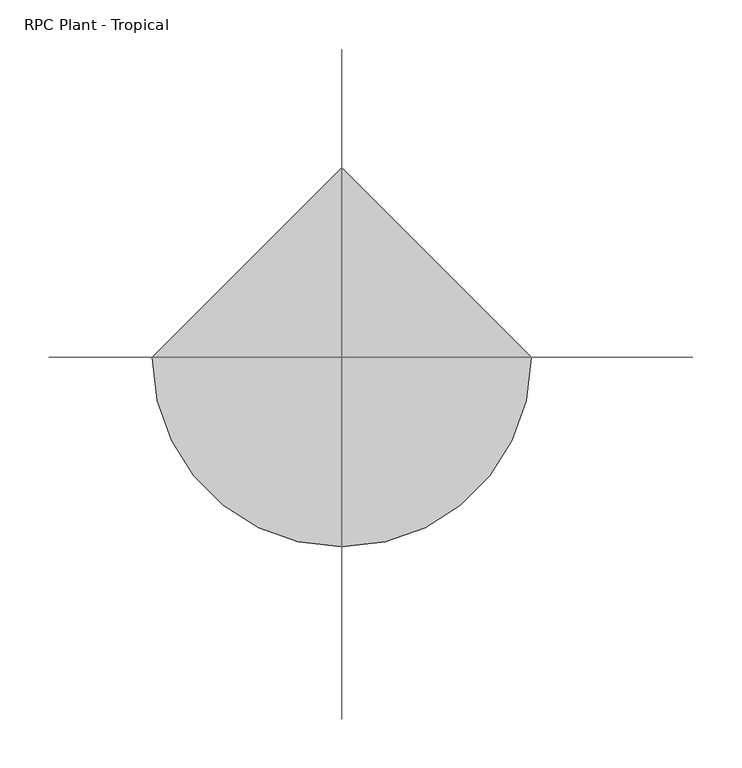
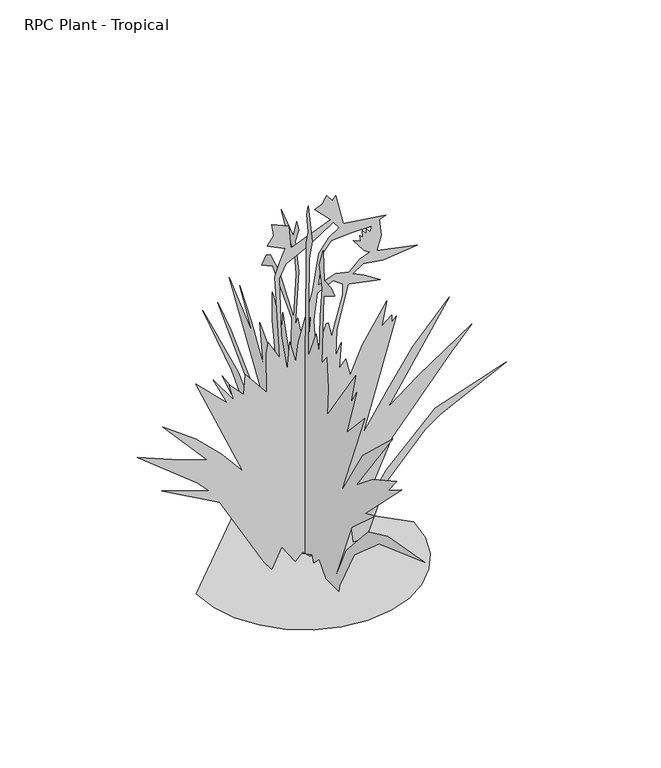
"""IFC4 building model written with IfcOpenShell, lengths in millimetres: geographic element geometry, RPC Plant - Tropical : Crane Lily - 0.9 Meters 2."""

import ifcopenshell
import ifcopenshell.guid

model = None  # the IFC model being written
_history = None  # IfcOwnerHistory: only IFC2X3 demands one
_inside = {}  # id of a spatial element -> (the spatial element, [elements in it])
_under = {}  # id of a project, library or spatial element -> (it, [spatial elements below it])
_declared = {}  # id of a project -> (the project, [libraries it declares])
_typed = {}  # id of a type object -> (the type object, [elements of that type])
_made_of = {}  # id of a material, layer set ... -> (it, [elements and type objects made of it])


def new_model(schema):
    """Start an empty IFC model of exactly this schema.

    Asked for "IFC4X3", IfcOpenShell would pick the latest addendum, in which some entities
    have other attributes; the version numbers below select the first issue.
    IFC2X3 requires an IfcOwnerHistory on every rooted entity: one is made here for all.
    """
    global model, _history
    if schema == "IFC4X3":
        model = ifcopenshell.file(schema_version=(4, 3, 0, 0))
    else:
        model = ifcopenshell.file(schema=schema)
    _inside.clear()
    _under.clear()
    _declared.clear()
    _typed.clear()
    _made_of.clear()
    _history = None
    if model.schema == "IFC2X3":
        org = make("IfcOrganization", Name="unknown")
        user = make(
            "IfcPersonAndOrganization",
            ThePerson=make("IfcPerson", FamilyName="unknown"),
            TheOrganization=org,
        )
        app = make(
            "IfcApplication",
            ApplicationDeveloper=org,
            Version="unknown",
            ApplicationFullName="unknown",
            ApplicationIdentifier="unknown",
        )
        _history = make(
            "IfcOwnerHistory",
            OwningUser=user,
            OwningApplication=app,
            ChangeAction="ADDED",
            CreationDate=0,
        )
    return model


def make(cls, **values):
    """One entity of the class cls with the attributes given. An attribute that is None is left unset."""
    return model.create_entity(
        cls, **{name: value for name, value in values.items() if value is not None}
    )


def rooted(cls, **values):
    """An entity with a GlobalId (a new one), such as an element, a storey or a relation."""
    return make(cls, GlobalId=ifcopenshell.guid.new(), OwnerHistory=_history, **values)


def si_unit(unit_type, name, prefix=None):
    """IfcSIUnit, for example si_unit("LENGTHUNIT", "METRE", prefix="MILLI")."""
    return make("IfcSIUnit", UnitType=unit_type, Prefix=prefix, Name=name)


def assignment(units):
    """IfcUnitAssignment: the units of a project."""
    return None if units is None else make("IfcUnitAssignment", Units=units)


def point(xyz):
    """IfcCartesianPoint."""
    return None if xyz is None else make("IfcCartesianPoint", Coordinates=xyz)


def direction(xyz):
    """IfcDirection."""
    return None if xyz is None else make("IfcDirection", DirectionRatios=xyz)


def frame(location, z_axis=None, x_axis=None):
    """IfcAxis2Placement3D, a coordinate frame: its origin and axes. An axis left out is left unset."""
    return make(
        "IfcAxis2Placement3D",
        Location=point(location),
        Axis=direction(z_axis),
        RefDirection=direction(x_axis),
    )


def origin():
    """The frame at (0, 0, 0) with its axes left unset."""
    return frame((0.0, 0.0, 0.0))


def place(relative_to, where):
    """IfcLocalPlacement: puts the frame where relative to a parent placement (None: the world)."""
    return make(
        "IfcLocalPlacement", PlacementRelTo=relative_to, RelativePlacement=where
    )


def context(
    kind, dimensions, precision=None, world=None, true_north=None, identifier=None
):
    """IfcGeometricRepresentationContext, for example the 3D "Model" context."""
    return make(
        "IfcGeometricRepresentationContext",
        ContextIdentifier=identifier,
        ContextType=kind,
        CoordinateSpaceDimension=dimensions,
        Precision=precision,
        WorldCoordinateSystem=world,
        TrueNorth=true_north,
    )


def project(units=None, contexts=None):
    """IfcProject with its units and contexts."""
    return rooted(
        "IfcProject",
        Name="project",
        RepresentationContexts=contexts,
        UnitsInContext=assignment(units),
    )


def spatial(cls, under=None, at=None, **own):
    """A site, building, storey or space (cls), placed at a placement, below another one or the project."""
    s = rooted(cls, ObjectPlacement=at, **own)
    if under is not None:
        _under.setdefault(under.id(), (under, []))[1].append(s)
    return s


def point_list(points):
    """IfcCartesianPointList2D or 3D."""
    cls = (
        "IfcCartesianPointList2D" if len(points[0]) == 2 else "IfcCartesianPointList3D"
    )
    return make(cls, CoordList=points)


def triangles(points, corners, closed=None, point_numbers=None):
    """IfcTriangulatedFaceSet: each triangle names its three corners, points numbered from 1."""
    return make(
        "IfcTriangulatedFaceSet",
        Coordinates=point_list(points),
        Closed=closed,
        CoordIndex=corners,
        PnIndex=point_numbers,
    )


def shape(context_of_items, identifier, shape_type, items):
    """IfcShapeRepresentation: the items that make up one representation, for example the "Body"."""
    return make(
        "IfcShapeRepresentation",
        ContextOfItems=context_of_items,
        RepresentationIdentifier=identifier,
        RepresentationType=shape_type,
        Items=items,
    )


def source(mapping_origin, context_of_items, identifier, shape_type, items):
    """IfcRepresentationMap: a shape defined once, which mapped items show again and again."""
    return make(
        "IfcRepresentationMap",
        MappingOrigin=mapping_origin,
        MappedRepresentation=shape(context_of_items, identifier, shape_type, items),
    )


def transform(
    local_origin,
    x_axis=None,
    y_axis=None,
    z_axis=None,
    scale=None,
    scale2=None,
    scale3=None,
    uniform=True,
):
    """IfcCartesianTransformationOperator3D, or its non-uniform kind. x_axis, y_axis, z_axis: its Axis1, 2, 3."""
    if uniform:
        return make(
            "IfcCartesianTransformationOperator3D",
            Axis1=direction(x_axis),
            Axis2=direction(y_axis),
            LocalOrigin=point(local_origin),
            Scale=scale,
            Axis3=direction(z_axis),
        )
    return make(
        "IfcCartesianTransformationOperator3DnonUniform",
        Axis1=direction(x_axis),
        Axis2=direction(y_axis),
        LocalOrigin=point(local_origin),
        Scale=scale,
        Axis3=direction(z_axis),
        Scale2=scale2,
        Scale3=scale3,
    )


def mapped(mapping_source, mapping_target):
    """IfcMappedItem: shows the shape of a source again, moved by a transform."""
    return make(
        "IfcMappedItem", MappingSource=mapping_source, MappingTarget=mapping_target
    )


def made_of(thing, what):
    """Note that an element or type object is made of a material, layer set ...; save() writes the relation."""
    if what is not None:
        _made_of.setdefault(what.id(), (what, []))[1].append(thing)
    return thing


def element(
    cls,
    number,
    at=None,
    inside=None,
    cuts=None,
    type_object=None,
    material=None,
    context=None,
    identifier="Body",
    shape_type=None,
    held_by="IfcProductDefinitionShape",
    body=None,
    shapes=None,
    **own,
):
    """One element of the class cls, such as IfcWall. Its Tag is "e" and its number.

    at: its placement. inside: the storey or other place that contains it. cuts: it is an
    opening in that element (IfcRelVoidsElement). A single representation is given by context,
    identifier, shape_type and body (its items); several are given by shapes. held_by: the class
    of the entity that holds the representations. save() writes the other relations.
    """
    e = rooted(cls, Tag="e%d" % number, ObjectPlacement=at, **own)
    if body is not None:
        shapes = [shape(context, identifier, shape_type, body)]
    if shapes is not None:
        e.Representation = make(held_by, Representations=shapes)
    if inside is not None:
        _inside.setdefault(inside.id(), (inside, []))[1].append(e)
    if cuts is not None:
        rooted(
            "IfcRelVoidsElement", RelatingBuildingElement=cuts, RelatedOpeningElement=e
        )
    if type_object is not None:
        _typed.setdefault(type_object.id(), (type_object, []))[1].append(e)
    return made_of(e, material)


def aggregate(whole, parts):
    """IfcRelAggregates: a whole, such as a stair, and the parts it consists of."""
    return rooted("IfcRelAggregates", RelatingObject=whole, RelatedObjects=parts)


def save(model, path):
    """Write the relations noted so far, then the file.

    IfcRelAggregates (storeys below a building ...), IfcRelContainedInSpatialStructure (elements
    in a storey), IfcRelDefinesByType, IfcRelAssociatesMaterial and IfcRelDeclares: one each for
    every whole, place, type object, material and project.
    """
    for whole, parts in _under.values():
        aggregate(whole, parts)
    for where, things in _inside.values():
        rooted(
            "IfcRelContainedInSpatialStructure",
            RelatedElements=things,
            RelatingStructure=where,
        )
    for kind, things in _typed.values():
        rooted("IfcRelDefinesByType", RelatedObjects=things, RelatingType=kind)
    for what, things in _made_of.values():
        rooted("IfcRelAssociatesMaterial", RelatedObjects=things, RelatingMaterial=what)
    for by, libraries in _declared.values():
        rooted("IfcRelDeclares", RelatingContext=by, RelatedDefinitions=libraries)
    model.write(path)


def rpc_plant_tropical_418e7fe6(model_context):
    return source(origin(), model_context, "Body", "Tessellation", [
        triangles([(-193.4893161, 0.0, 0.0199684), (-188.3694069, -44.38009, 0.0199684), (-173.7861038, -85.136037, 0.0199684), (-150.9083668, -121.1001754, 0.0199684), (-120.9035032, -151.1050391, 0.0199684), (-84.9393648, -173.9827669, 0.0199684), (-44.1834177, -188.5660701, 0.0199684), (0.1966796, -193.6859792, 0.0199684), (44.5767622, -188.5660701, 0.0199684), (85.3327093, -173.9827669, 0.0199684), (121.2968476, -151.1050391, 0.0199684), (151.3017113, -121.1001754, 0.0199684), (174.1794301, -85.136037, 0.0199684), (188.7627332, -44.38009, 0.0199684), (193.8826424, 1.69e-05, 0.0199684), (0.1966457, 193.6859792, 0.0199684), (0.1966672, -103.585247, 0.0), (0.196669, -65.5169312, 0.0399318), (0.1966481, -43.9151837, 24.3802024), (0.1966483, -26.6583905, 7.2150682), (0.1966489, -22.229314, 19.1493603), (0.1966727, 16.2188524, 0.0259179), (0.196651, 25.7107126, 16.4681661), (0.1966513, 36.9529497, 10.245239), (0.1966534, 52.6114189, 59.1930575), (0.1966749, 67.1267938, 0.0155156), (0.1966538, 79.8778369, 29.9261326), (0.1966534, 82.6771392, 11.7209711), (0.1966576, 120.4914099, 98.5959804), (0.1966601, 147.4985732, 139.8123599), (0.1966648, 230.7314288, 172.9282528), (0.1966664, 255.1585351, 188.9494587), (0.1966647, 220.9270854, 183.5619061), (0.1966625, 180.786058, 169.9612646), (0.1966659, 226.4546004, 216.1793919), (0.1966716, 315.2910748, 275.9825184), (0.1966653, 205.5077685, 226.6686317), (0.1966595, 127.9092438, 149.7095756), (0.1966639, 175.9747056, 225.2411571), (0.1966709, 269.3997625, 318.7062369), (0.1966683, 229.0434141, 292.5482951), (0.1966628, 153.9703983, 220.0635298), (0.196659, 108.5778656, 161.8127612), (0.1966625, 137.1435275, 236.8898646), (0.1966713, 234.5876614, 386.7503757), (0.1966664, 163.379635, 326.6196711), (0.19667, 201.357495, 391.4980511), (0.1966671, 166.1297942, 346.5149683), (0.1966636, 128.5669616, 287.0598764), (0.1966663, 139.6435566, 359.8498375), (0.1966623, 87.4242785, 304.4649914), (0.1966654, 100.7148554, 388.0512774), (0.196667, 101.6658784, 440.5514159), (0.1966641, 69.5728564, 392.8827413), (0.1966649, 68.435344, 421.5624587), (0.1966614, 43.6505333, 339.5786184), (0.1966639, 41.1838143, 427.8642179), (0.1966684, 99.6536465, 490.2952183), (0.1966694, 133.3139194, 472.1996295), (0.1966695, 120.1108099, 498.753968), (0.1966692, 107.739254, 506.7139472), (0.1966675, 79.2660919, 492.320131), (0.1966638, 35.2049914, 432.6398349), (0.196666, 27.0160972, 519.5537885), (0.1966672, 32.1391811, 552.259096), (0.1966696, 61.3664668, 589.4329897), (0.1966709, 73.1826696, 613.0337294), (0.1966684, 36.0030372, 586.0959841), (0.1966689, 25.7107126, 619.3633575), (0.1966683, 19.3808823, 606.7041012), (0.1966679, 30.4576658, 579.8035629), (0.1966659, 19.6732632, 528.4629104), (0.1966632, 30.4576658, 421.5624587), (0.1966634, 22.5457032, 438.9694631), (0.1966617, 6.7216685, 404.1573438), (0.1966618, -3.1094912, 422.9024932), (0.1966669, -4.602364, 597.7037421), (0.1966674, -9.942975, 620.9453104), (0.1966685, -5.0896217, 650.4793362), (0.1966688, -10.6847596, 670.0005283), (0.1966665, -22.2015836, 610.526833), (0.1966658, -12.5598109, 572.0650818), (0.1966604, -10.6847596, 386.7503757), (0.196661, -34.4207188, 443.7171747), (0.1966596, -43.9151837, 410.4870083), (0.1966617, -46.7334665, 485.1045831), (0.196663, -53.9450948, 541.1259456), (0.1966646, -43.9151837, 579.8035629), (0.1966649, -50.2448301, 597.2105673), (0.1966651, -56.5744719, 614.6156822), (0.1966633, -59.7392951, 559.2326892), (0.1966623, -81.28074, 558.2016475), (0.1966616, -92.6729861, 550.6771794), (0.1966621, -73.5163657, 538.762318), (0.1966625, -58.4039478, 529.067779), (0.1966589, -51.8271463, 399.4096684), (0.1966588, -67.6959224, 419.3626293), (0.1966569, -72.398397, 363.0137432), (0.1966555, -69.2335738, 312.3765724), (0.1966554, -156.2657161, 438.9694631), (0.1966543, -142.0241072, 378.8387584), (0.1966544, -159.4305302, 408.9032023), (0.1966529, -129.3650052, 315.5423312), (0.1966522, -184.7491156, 375.6730359), (0.1966501, -111.9585822, 193.6971522), (0.1966503, -179.0829462, 302.6448263), (0.1966488, -270.6132241, 389.1270112), (0.1966492, -157.848214, 233.256965), (0.1966482, -209.174169, 275.5842506), (0.1966461, -283.9946202, 316.4319571), (0.1966463, -257.5388949, 283.8941176), (0.1966452, -298.1893207, 309.2908596), (0.1966469, -186.1857103, 197.3542328), (0.1966459, -216.3971475, 211.1041384), (0.1966472, -144.7867474, 145.6767276), (0.1966456, -86.6400059, 5.3913452), (0.1966464, -126.9085236, 91.9205339), (0.1966456, -195.5098868, 168.2884924), (0.1966437, -254.9780047, 195.8579033), (0.1966392, -369.89054, 215.8518319), (0.196644, -228.702828, 165.8454184), (0.1966454, -151.9090325, 97.8617683), (0.1966449, -107.2112521, 13.3033634), (86.1672332, 1.69e-05, 0.0296842), (81.0443355, 1.53e-05, 54.5211089), (57.4106218, 1.86e-05, 15.3978224), (40.9470373, 1.83e-05, 33.8746697), (9.4196563, 2.12e-05, 0.0089616), (-3.5920517, 2.14e-05, 13.2981709), (-17.4652312, 2.26e-05, 0.0027423), (-41.3381517, 2.18e-05, 35.4569859), (-59.30868, 2.4e-05, 0.0133108), (-72.3327488, 2.42e-05, 17.6907125), (-152.0566707, 1.92e-05, 158.7359686), (-254.961872, 2.03e-05, 215.8518319), (-171.0949345, 1.84e-05, 187.3675059), (-191.4849144, 1.8e-05, 209.0327169), (-299.2693783, 1.76e-05, 294.9714575), (-237.7019154, 1.64e-05, 269.6696407), (-174.2597486, 1.5e-05, 245.9162577), (-253.3799373, 1.31e-05, 336.113205), (-194.8758594, 1.31e-05, 293.2480707), (-149.1497987, 1.37e-05, 248.9163653), (-110.9636757, 1.48e-05, 203.1925574), (-194.8311855, 7e-06, 396.2439096), (-138.5723466, 7.8e-06, 341.4583365), (-163.1829719, 5.8e-06, 393.0800039), (-127.1019439, 7.2e-06, 342.3107191), (-134.6995633, 5.7e-06, 374.091083), (-109.3811687, 6.2e-06, 347.1905448), (-106.2163455, 3.8e-06, 383.58647), (-68.2386718, 5e-06, 336.113205), (-68.7512223, 6e-07, 409.910045), (-65.0740349, -7e-07, 429.4759292), (-44.5025979, 6e-07, 393.0800039), (-47.0074732, -1.4e-06, 427.7004198), (-53.5591445, -8.3e-06, 549.0263718), (-45.0244547, -1.02e-05, 573.9485061), (-34.9065199, -1.19e-05, 596.05853), (-66.6563556, -1.15e-05, 611.4517765), (-55.8898162, -1.29e-05, 627.4983261), (-58.7443931, -1.41e-05, 649.4296909), (-29.0315446, -1.46e-05, 636.7685452), (-25.5140427, -1.22e-05, 594.0448085), (45.6941767, -1.7e-05, 622.5291527), (17.211018, -1.75e-05, 651.0115711), (31.2761342, -1.85e-05, 656.8852678), (39.3647166, -1.96e-05, 670.0005283), (48.6987535, -1.92e-05, 657.1662827), (54.9748012, -1.99e-05, 664.4172209), (68.8369229, -1.71e-05, 606.8027507), (143.9471457, -1.98e-05, 596.3730457), (132.7263099, -1.91e-05, 592.4628556), (136.286812, -1.74e-05, 561.9033837), (127.9791705, -1.54e-05, 535.4960567), (200.7706304, -1.77e-05, 519.6728946), (138.961785, -1.46e-05, 513.6075308), (104.2926076, -1.34e-05, 518.8819181), (85.2541712, -1.19e-05, 507.0136019), (104.8676906, -1.22e-05, 497.5926653), (134.3088168, -1.23e-05, 478.5292577), (77.3652904, -1.05e-05, 490.2524157), (56.6522197, -4.9e-06, 410.6935727), (55.1886417, -2e-06, 363.0137432), (64.618712, -3.7e-06, 384.2341413), (61.5180973, -7e-07, 336.113205), (72.5950692, -2e-06, 350.3544505), (80.5070318, -4e-07, 317.1242841), (102.003812, -4.2e-06, 366.1925099), (146.0139163, -1.02e-05, 433.7769748), (137.47364, -7.2e-06, 389.9161345), (154.880063, -8.8e-06, 404.1573438), (154.880063, -8e-06, 391.4980511), (162.7920256, -8.9e-06, 399.4096684), (104.2431011, 5.6e-06, 200.0267986), (144.8349004, 1e-07, 262.9826579), (192.4644876, -6.1e-06, 331.7917027), (257.7355581, -1.32e-05, 402.5735378), (148.550235, 1.7e-06, 233.256965), (200.8822878, -3e-06, 273.1052413), (297.2972421, -1.11e-05, 337.6951578), (260.79709, -7.1e-06, 297.3276182), (155.1869483, 5e-06, 172.4756278), (96.6834517, 1.52e-05, 43.6259663), (144.8942717, 8.8e-06, 116.0141305), (232.5174934, -1e-07, 201.5101019), (359.0098815, -8.2e-06, 244.3343049), (242.1096587, 3e-07, 187.0213424), (214.0254717, 2.8e-06, 166.8962082), (146.1722915, 1.01e-05, 93.1148106), (108.9902405, 1.56e-05, 0.0371804), (84.0044382, -1.64e-05, 584.3074668), (46.8501109, -1.47e-05, 582.3197974), (31.2054104, -1.28e-05, 562.4096028), (23.5406053, -9.2e-06, 507.0136019), (54.9284559, -1.12e-05, 517.5381775), (78.9247156, -1.19e-05, 511.7594241), (97.5075475, -1.38e-05, 529.5423503), (115.3200686, -1.5e-05, 537.0780095), (105.6571773, -1.49e-05, 543.1489689), (86.3431036, -1.56e-05, 568.804416), (99.823331, -1.59e-05, 562.9530653), (98.1630308, -1.64e-05, 573.8964017), (103.2853744, -1.64e-05, 569.3962403), (102.6607849, -1.71e-05, 581.3855158), (108.9902405, -1.69e-05, 573.4739347), (109.229025, -1.74e-05, 582.63246), (116.3148389, -1.73e-05, 575.5416138), (119.0890155, -1.8e-05, 584.4693755), (26.9386241, -1.49e-05, 600.0990174), (-7.5100658, -1.21e-05, 579.4183393), (-33.9506507, -1.02e-05, 566.8576598), (-45.8459525, -8.3e-06, 543.6160915), (-42.0403481, -2.1e-06, 435.8297565), (-31.8435005, 1.6e-06, 366.179502), (-27.0963611, -1.6e-06, 416.8166365), (-16.0194448, 4e-07, 375.6730359), (-11.4481055, -1.9e-06, 410.2245606), (13.452799, -8.1e-06, 496.0851628), (24.8262622, -1.27e-05, 565.8098677), (42.4524914, -1.5e-05, 590.1271697), (61.5180973, -1.65e-05, 601.9563895), (50.4415023, -1.69e-05, 616.1995245), (22.3312541, -8.2e-06, 492.1377294), (16.1710662, -5.1e-06, 443.3300617), (19.0141941, -1.8e-06, 386.9401897), (22.8050942, -2e-06, 387.4147974), (37.9685082, -5.2e-06, 429.5875866), (41.2855705, -5.3e-06, 429.1148684), (47.9195087, -4e-06, 401.6299544), (51.2365664, -5e-06, 416.3197191), (67.3476606, -9.1e-06, 473.1823093), (67.3476606, -1.03e-05, 493.0850189), (50.2887046, -1.03e-05, 505.8783151), (5.2723719, -4.2e-06, 436.222465), (8.1155004, -3.3e-06, 420.1108031), (10.0109317, -4.5e-06, 438.1170805), (11.4325053, -5.8e-06, 459.4416873)], [[15, 16, 1], [14, 15, 1], [14, 1, 2], [13, 14, 2], [13, 2, 3], [13, 3, 4], [12, 13, 4], [11, 12, 4], [11, 4, 5], [11, 5, 6], [11, 6, 7], [11, 7, 8], [11, 8, 9], [11, 9, 10], [46, 47, 48], [119, 120, 121], [35, 36, 37], [106, 107, 108], [39, 40, 41], [39, 41, 42], [101, 102, 103], [111, 112, 113], [105, 106, 108], [44, 45, 46], [113, 114, 115], [54, 55, 56], [103, 104, 105], [99, 100, 101], [109, 110, 111], [89, 90, 91], [118, 119, 121], [31, 32, 33], [46, 48, 49], [44, 46, 49], [79, 80, 81], [78, 79, 81], [66, 67, 68], [27, 28, 29], [52, 53, 54], [88, 89, 91], [87, 88, 91], [49, 50, 51], [58, 59, 60], [99, 101, 103], [25, 26, 27], [83, 84, 85], [109, 111, 113], [108, 109, 113], [96, 97, 98], [68, 69, 70], [68, 70, 71], [38, 39, 42], [38, 42, 43], [65, 66, 68], [65, 68, 71], [65, 71, 72], [64, 65, 72], [64, 72, 73], [63, 64, 73], [118, 121, 122], [117, 118, 122], [117, 122, 123], [116, 117, 123], [73, 74, 75], [116, 123, 17], [116, 17, 18], [58, 60, 61], [58, 61, 62], [57, 58, 62], [57, 62, 63], [77, 78, 81], [77, 81, 82], [76, 77, 82], [76, 82, 83], [75, 76, 83], [92, 93, 94], [19, 20, 21], [30, 31, 33], [30, 33, 34], [91, 92, 94], [87, 91, 94], [87, 94, 95], [86, 87, 95], [86, 95, 96], [85, 86, 96], [34, 35, 37], [34, 37, 38], [30, 34, 38], [25, 27, 29], [57, 63, 73], [56, 57, 73], [56, 73, 75], [56, 75, 83], [23, 24, 25], [99, 103, 105], [29, 30, 38], [105, 108, 113], [105, 113, 115], [51, 52, 54], [51, 54, 56], [83, 85, 96], [21, 22, 23], [83, 96, 98], [83, 98, 99], [56, 83, 99], [29, 38, 43], [25, 29, 43], [115, 116, 18], [115, 18, 19], [105, 115, 19], [21, 23, 25], [44, 49, 51], [43, 44, 51], [56, 99, 105], [51, 56, 105], [43, 51, 105], [43, 105, 19], [25, 43, 19], [21, 25, 19], [248, 124, 125], [241, 229, 212], [206, 207, 208], [197, 198, 199], [146, 147, 148], [134, 135, 136], [196, 197, 199], [241, 212, 213], [255, 237, 238], [140, 141, 142], [200, 201, 202], [137, 138, 139], [255, 238, 239], [258, 255, 239], [175, 176, 177], [184, 185, 186], [235, 236, 237], [180, 181, 182], [189, 190, 191], [144, 145, 146], [140, 142, 143], [247, 248, 125], [171, 172, 173], [200, 202, 203], [199, 200, 203], [193, 194, 195], [237, 255, 256], [220, 221, 222], [148, 149, 150], [137, 139, 140], [224, 225, 226], [229, 241, 242], [195, 196, 199], [222, 223, 224], [153, 154, 155], [179, 180, 182], [150, 151, 152], [226, 227, 228], [191, 192, 193], [186, 187, 188], [169, 170, 171], [175, 177, 178], [152, 153, 155], [195, 199, 203], [161, 162, 163], [240, 241, 213], [240, 213, 214], [165, 166, 167], [167, 168, 169], [165, 167, 169], [165, 169, 171], [191, 193, 195], [189, 191, 195], [188, 189, 195], [239, 240, 214], [239, 214, 215], [125, 126, 127], [124, 248, 249], [124, 249, 250], [161, 163, 164], [160, 161, 164], [159, 160, 164], [131, 132, 133], [144, 146, 148], [129, 130, 131], [131, 133, 134], [206, 208, 209], [205, 206, 209], [205, 209, 210], [204, 205, 210], [204, 210, 211], [204, 211, 124], [204, 124, 250], [246, 247, 125], [195, 203, 204], [144, 148, 150], [144, 150, 152], [158, 159, 164], [127, 128, 129], [246, 125, 127], [246, 127, 129], [246, 129, 131], [136, 137, 140], [136, 140, 143], [136, 143, 144], [134, 136, 144], [131, 134, 144], [220, 222, 224], [220, 224, 226], [220, 226, 228], [219, 220, 228], [131, 144, 152], [258, 239, 215], [174, 175, 178], [186, 188, 195], [215, 216, 217], [131, 152, 155], [157, 158, 164], [217, 218, 219], [186, 195, 204], [219, 228, 229], [245, 246, 131], [245, 131, 215], [244, 245, 215], [254, 244, 215], [254, 215, 217], [253, 254, 217], [252, 253, 217], [257, 258, 215], [184, 186, 204], [184, 204, 250], [183, 184, 250], [183, 250, 251], [182, 183, 251], [182, 251, 252], [182, 252, 217], [179, 182, 217], [179, 217, 219], [178, 179, 219], [174, 178, 219], [174, 219, 229], [173, 174, 229], [171, 173, 229], [171, 229, 242], [165, 171, 242], [165, 242, 243], [165, 243, 230], [164, 165, 230], [164, 230, 231], [164, 231, 232], [157, 164, 232], [157, 232, 233], [156, 157, 233], [156, 233, 234], [156, 234, 235], [155, 156, 235], [131, 155, 235], [131, 235, 237], [131, 237, 256], [215, 131, 256], [257, 215, 256]], closed=False),
    ])


if __name__ == "__main__":
    model = new_model("IFC4")
    model_context = context("Model", 3, world=origin())
    ifc_project = project(units=[si_unit("LENGTHUNIT", "METRE", prefix="MILLI")], contexts=[model_context])
    site = spatial("IfcSite", under=ifc_project)
    building = spatial("IfcBuilding", under=site)
    placement = place(None, origin())
    rpc_plant_tropical_shape = rpc_plant_tropical_418e7fe6(model_context)
    element("IfcGeographicElement", 1, ObjectType="RPC Plant - Tropical : Crane Lily - 0.9 Meters 2", at=placement, inside=building, context=model_context, shape_type="MappedRepresentation", body=[
        mapped(rpc_plant_tropical_shape, transform((0.0, 0.0, 0.0), x_axis=(1.0, 0.0, 0.0), y_axis=(0.0, 1.0, 0.0), z_axis=(0.0, 0.0, 1.0))),
    ])
    save(model, "model.ifc")
